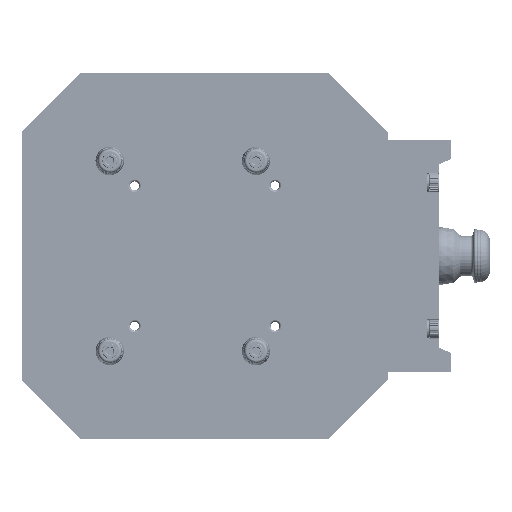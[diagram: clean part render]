
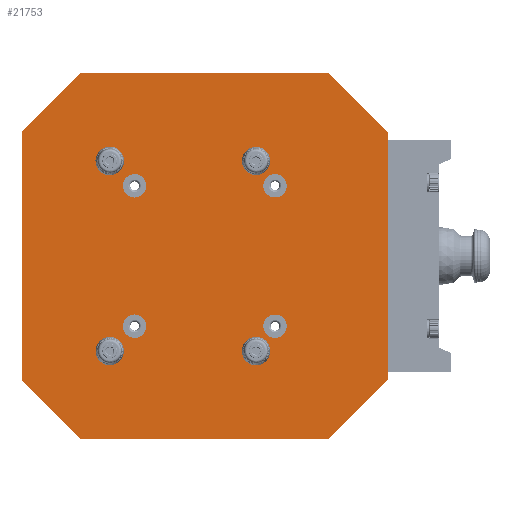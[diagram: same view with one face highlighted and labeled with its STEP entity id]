
A CAD part, front view. The second image highlights one B-rep face of the part: STEP entity #21753.
In plain terms, the highlighted planar face has unit normal (0, -1, 0).
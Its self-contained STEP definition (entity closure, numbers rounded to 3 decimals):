
#683 = LINE ( 'NONE', #47190, #10724 ) ;
#715 = AXIS2_PLACEMENT_3D ( 'NONE', #45772, #12275, #12644 ) ;
#733 = CARTESIAN_POINT ( 'NONE',  ( -105., 0., 105. ) ) ;
#943 = VECTOR ( 'NONE', #45825, 1000. ) ;
#1461 = CARTESIAN_POINT ( 'NONE',  ( -85., 0., 125. ) ) ;
#1862 = CARTESIAN_POINT ( 'NONE',  ( 125., 0., 85. ) ) ;
#2087 = ORIENTED_EDGE ( 'NONE', *, *, #6077, .T. ) ;
#2525 = FACE_BOUND ( 'NONE', #53072, .T. ) ;
#3175 = DIRECTION ( 'NONE',  ( 0.707, 0., 0.707 ) ) ;
#3195 = EDGE_LOOP ( 'NONE', ( #43360 ) ) ;
#5893 = EDGE_CURVE ( 'NONE', #16089, #16089, #9582, .T. ) ;
#6077 = EDGE_CURVE ( 'NONE', #31935, #51168, #15798, .T. ) ;
#6255 = EDGE_LOOP ( 'NONE', ( #19736 ) ) ;
#6635 = EDGE_LOOP ( 'NONE', ( #10253 ) ) ;
#6918 = ORIENTED_EDGE ( 'NONE', *, *, #72258, .F. ) ;
#7898 = EDGE_CURVE ( 'NONE', #21294, #21294, #16096, .T. ) ;
#9490 = DIRECTION ( 'NONE',  ( 0., 1., 0. ) ) ;
#9582 = CIRCLE ( 'NONE', #55975, 8.01 ) ;
#9790 = CARTESIAN_POINT ( 'NONE',  ( -85., 0., -125. ) ) ;
#10059 = ORIENTED_EDGE ( 'NONE', *, *, #22055, .T. ) ;
#10253 = ORIENTED_EDGE ( 'NONE', *, *, #5893, .T. ) ;
#10724 = VECTOR ( 'NONE', #18912, 1000. ) ;
#12275 = DIRECTION ( 'NONE',  ( 0., -1., 0. ) ) ;
#12351 = DIRECTION ( 'NONE',  ( 0., 1., 0. ) ) ;
#12644 = DIRECTION ( 'NONE',  ( 0., 0., -1. ) ) ;
#14019 = DIRECTION ( 'NONE',  ( 0., 0., -1. ) ) ;
#14073 = EDGE_CURVE ( 'NONE', #36151, #51168, #37230, .T. ) ;
#14086 = CARTESIAN_POINT ( 'NONE',  ( 105., 0., 105. ) ) ;
#14443 = PLANE ( 'NONE',  #28848 ) ;
#14887 = AXIS2_PLACEMENT_3D ( 'NONE', #31823, #9490, #32203 ) ;
#15492 = CIRCLE ( 'NONE', #30958, 8.01 ) ;
#15662 = AXIS2_PLACEMENT_3D ( 'NONE', #31152, #70284, #14019 ) ;
#15798 = LINE ( 'NONE', #37052, #19128 ) ;
#15823 = CARTESIAN_POINT ( 'NONE',  ( 35., 0., -71.011 ) ) ;
#16089 = VERTEX_POINT ( 'NONE', #55947 ) ;
#16096 = CIRCLE ( 'NONE', #14887, 8.01 ) ;
#18206 = CIRCLE ( 'NONE', #38455, 6.011 ) ;
#18845 = CARTESIAN_POINT ( 'NONE',  ( -125., 0., -85. ) ) ;
#18912 = DIRECTION ( 'NONE',  ( 1., 0., 0. ) ) ;
#19011 = ORIENTED_EDGE ( 'NONE', *, *, #57391, .F. ) ;
#19128 = VECTOR ( 'NONE', #3175, 1000. ) ;
#19316 = ORIENTED_EDGE ( 'NONE', *, *, #67875, .F. ) ;
#19736 = ORIENTED_EDGE ( 'NONE', *, *, #52431, .F. ) ;
#20362 = FACE_BOUND ( 'NONE', #3195, .T. ) ;
#20464 = CARTESIAN_POINT ( 'NONE',  ( -125., 0., 125. ) ) ;
#20731 = EDGE_CURVE ( 'NONE', #36151, #29465, #71453, .T. ) ;
#20799 = VECTOR ( 'NONE', #43894, 1000. ) ;
#20926 = CARTESIAN_POINT ( 'NONE',  ( 48., 0., -56.01 ) ) ;
#21294 = VERTEX_POINT ( 'NONE', #20926 ) ;
#21753 = ADVANCED_FACE ( 'NONE', ( #65457, #20362, #52790, #31191, #53898, #64342, #47956, #2525, #35657 ), #14443, .T. ) ;
#22055 = EDGE_CURVE ( 'NONE', #53279, #53279, #46761, .T. ) ;
#22852 = VERTEX_POINT ( 'NONE', #68331 ) ;
#23416 = DIRECTION ( 'NONE',  ( -0.707, 0., -0.707 ) ) ;
#24145 = ORIENTED_EDGE ( 'NONE', *, *, #34559, .F. ) ;
#24471 = DIRECTION ( 'NONE',  ( 0., -1., 0. ) ) ;
#24476 = ORIENTED_EDGE ( 'NONE', *, *, #43050, .F. ) ;
#24786 = CARTESIAN_POINT ( 'NONE',  ( -65., 0., -71.011 ) ) ;
#25064 = CARTESIAN_POINT ( 'NONE',  ( -65., 0., 58.989 ) ) ;
#26321 = EDGE_CURVE ( 'NONE', #26705, #42795, #56677, .T. ) ;
#26429 = LINE ( 'NONE', #20464, #20799 ) ;
#26705 = VERTEX_POINT ( 'NONE', #18845 ) ;
#27249 = DIRECTION ( 'NONE',  ( 0.707, 0., -0.707 ) ) ;
#27339 = EDGE_LOOP ( 'NONE', ( #10059 ) ) ;
#27579 = CIRCLE ( 'NONE', #72782, 6.011 ) ;
#28027 = DIRECTION ( 'NONE',  ( 0., -1., 0. ) ) ;
#28174 = VERTEX_POINT ( 'NONE', #1461 ) ;
#28848 = AXIS2_PLACEMENT_3D ( 'NONE', #36029, #24471, #30433 ) ;
#29014 = LINE ( 'NONE', #733, #30329 ) ;
#29465 = VERTEX_POINT ( 'NONE', #48642 ) ;
#29983 = CARTESIAN_POINT ( 'NONE',  ( -48., 0., -48. ) ) ;
#30329 = VECTOR ( 'NONE', #23416, 1000. ) ;
#30410 = DIRECTION ( 'NONE',  ( 0., 0., -1. ) ) ;
#30433 = DIRECTION ( 'NONE',  ( 0., 0., -1. ) ) ;
#30958 = AXIS2_PLACEMENT_3D ( 'NONE', #44859, #62387, #68359 ) ;
#31152 = CARTESIAN_POINT ( 'NONE',  ( -65., 0., -65. ) ) ;
#31191 = FACE_BOUND ( 'NONE', #27339, .T. ) ;
#31250 = CARTESIAN_POINT ( 'NONE',  ( 85., 0., -125. ) ) ;
#31823 = CARTESIAN_POINT ( 'NONE',  ( 48., 0., -48. ) ) ;
#31935 = VERTEX_POINT ( 'NONE', #31250 ) ;
#32203 = DIRECTION ( 'NONE',  ( 0., 0., -1. ) ) ;
#34559 = EDGE_CURVE ( 'NONE', #28174, #29465, #683, .T. ) ;
#35205 = DIRECTION ( 'NONE',  ( 0., 0., -1. ) ) ;
#35657 = FACE_OUTER_BOUND ( 'NONE', #68405, .T. ) ;
#36029 = CARTESIAN_POINT ( 'NONE',  ( 0., 0., 0. ) ) ;
#36151 = VERTEX_POINT ( 'NONE', #1862 ) ;
#36794 = EDGE_LOOP ( 'NONE', ( #38333 ) ) ;
#37052 = CARTESIAN_POINT ( 'NONE',  ( 105., 0., -105. ) ) ;
#37230 = LINE ( 'NONE', #59991, #43767 ) ;
#37311 = ORIENTED_EDGE ( 'NONE', *, *, #26321, .T. ) ;
#37867 = EDGE_CURVE ( 'NONE', #63920, #63920, #15492, .T. ) ;
#38333 = ORIENTED_EDGE ( 'NONE', *, *, #48210, .F. ) ;
#38455 = AXIS2_PLACEMENT_3D ( 'NONE', #45542, #50427, #73496 ) ;
#38893 = VERTEX_POINT ( 'NONE', #15823 ) ;
#39049 = VECTOR ( 'NONE', #55050, 1000. ) ;
#42795 = VERTEX_POINT ( 'NONE', #9790 ) ;
#43050 = EDGE_CURVE ( 'NONE', #31935, #42795, #64079, .T. ) ;
#43360 = ORIENTED_EDGE ( 'NONE', *, *, #7898, .T. ) ;
#43767 = VECTOR ( 'NONE', #30410, 1000. ) ;
#43894 = DIRECTION ( 'NONE',  ( 0., 0., 1. ) ) ;
#44694 = CIRCLE ( 'NONE', #715, 6.011 ) ;
#44859 = CARTESIAN_POINT ( 'NONE',  ( 48., 0., 48. ) ) ;
#45194 = ORIENTED_EDGE ( 'NONE', *, *, #71989, .T. ) ;
#45542 = CARTESIAN_POINT ( 'NONE',  ( 35., 0., -65. ) ) ;
#45772 = CARTESIAN_POINT ( 'NONE',  ( 35., 0., 65. ) ) ;
#45825 = DIRECTION ( 'NONE',  ( -1., 0., 0. ) ) ;
#46202 = CARTESIAN_POINT ( 'NONE',  ( -125., 0., -125. ) ) ;
#46761 = CIRCLE ( 'NONE', #62260, 8.01 ) ;
#47190 = CARTESIAN_POINT ( 'NONE',  ( -125., 0., 125. ) ) ;
#47956 = FACE_BOUND ( 'NONE', #53360, .T. ) ;
#48210 = EDGE_CURVE ( 'NONE', #65395, #65395, #56069, .T. ) ;
#48642 = CARTESIAN_POINT ( 'NONE',  ( 85., 0., 125. ) ) ;
#50427 = DIRECTION ( 'NONE',  ( 0., -1., 0. ) ) ;
#50635 = EDGE_LOOP ( 'NONE', ( #60164 ) ) ;
#51168 = VERTEX_POINT ( 'NONE', #62320 ) ;
#51636 = CARTESIAN_POINT ( 'NONE',  ( 48., 0., 39.99 ) ) ;
#52431 = EDGE_CURVE ( 'NONE', #38893, #38893, #18206, .T. ) ;
#52790 = FACE_BOUND ( 'NONE', #50635, .T. ) ;
#53072 = EDGE_LOOP ( 'NONE', ( #19316 ) ) ;
#53279 = VERTEX_POINT ( 'NONE', #71449 ) ;
#53360 = EDGE_LOOP ( 'NONE', ( #19011 ) ) ;
#53898 = FACE_BOUND ( 'NONE', #36794, .T. ) ;
#55050 = DIRECTION ( 'NONE',  ( -0.707, 0., 0.707 ) ) ;
#55443 = VECTOR ( 'NONE', #27249, 1000. ) ;
#55947 = CARTESIAN_POINT ( 'NONE',  ( -48., 0., -56.01 ) ) ;
#55975 = AXIS2_PLACEMENT_3D ( 'NONE', #29983, #58332, #35205 ) ;
#56069 = CIRCLE ( 'NONE', #15662, 6.011 ) ;
#56312 = CARTESIAN_POINT ( 'NONE',  ( -105., 0., -105. ) ) ;
#56677 = LINE ( 'NONE', #56312, #55443 ) ;
#57391 = EDGE_CURVE ( 'NONE', #22852, #22852, #44694, .T. ) ;
#58332 = DIRECTION ( 'NONE',  ( 0., 1., 0. ) ) ;
#59991 = CARTESIAN_POINT ( 'NONE',  ( 125., 0., 125. ) ) ;
#60164 = ORIENTED_EDGE ( 'NONE', *, *, #37867, .T. ) ;
#60758 = ORIENTED_EDGE ( 'NONE', *, *, #14073, .F. ) ;
#62260 = AXIS2_PLACEMENT_3D ( 'NONE', #68615, #12351, #69705 ) ;
#62320 = CARTESIAN_POINT ( 'NONE',  ( 125., 0., -85. ) ) ;
#62387 = DIRECTION ( 'NONE',  ( 0., 1., 0. ) ) ;
#63920 = VERTEX_POINT ( 'NONE', #51636 ) ;
#64079 = LINE ( 'NONE', #46202, #943 ) ;
#64342 = FACE_BOUND ( 'NONE', #6255, .T. ) ;
#65087 = ORIENTED_EDGE ( 'NONE', *, *, #20731, .T. ) ;
#65304 = VERTEX_POINT ( 'NONE', #25064 ) ;
#65395 = VERTEX_POINT ( 'NONE', #24786 ) ;
#65457 = FACE_BOUND ( 'NONE', #6635, .T. ) ;
#67875 = EDGE_CURVE ( 'NONE', #65304, #65304, #27579, .T. ) ;
#68331 = CARTESIAN_POINT ( 'NONE',  ( 35., 0., 58.989 ) ) ;
#68359 = DIRECTION ( 'NONE',  ( 0., 0., -1. ) ) ;
#68405 = EDGE_LOOP ( 'NONE', ( #24476, #2087, #60758, #65087, #24145, #45194, #6918, #37311 ) ) ;
#68615 = CARTESIAN_POINT ( 'NONE',  ( -48., 0., 48. ) ) ;
#69705 = DIRECTION ( 'NONE',  ( 0., 0., -1. ) ) ;
#70284 = DIRECTION ( 'NONE',  ( 0., -1., 0. ) ) ;
#71449 = CARTESIAN_POINT ( 'NONE',  ( -48., 0., 39.99 ) ) ;
#71453 = LINE ( 'NONE', #14086, #39049 ) ;
#71989 = EDGE_CURVE ( 'NONE', #28174, #73479, #29014, .T. ) ;
#72258 = EDGE_CURVE ( 'NONE', #26705, #73479, #26429, .T. ) ;
#72743 = CARTESIAN_POINT ( 'NONE',  ( -65., 0., 65. ) ) ;
#72782 = AXIS2_PLACEMENT_3D ( 'NONE', #72743, #28027, #73457 ) ;
#72801 = CARTESIAN_POINT ( 'NONE',  ( -125., 0., 85. ) ) ;
#73457 = DIRECTION ( 'NONE',  ( 0., 0., -1. ) ) ;
#73479 = VERTEX_POINT ( 'NONE', #72801 ) ;
#73496 = DIRECTION ( 'NONE',  ( 0., 0., -1. ) ) ;
